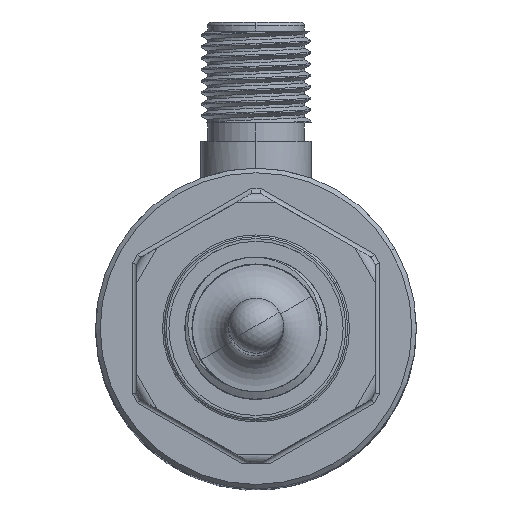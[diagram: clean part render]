
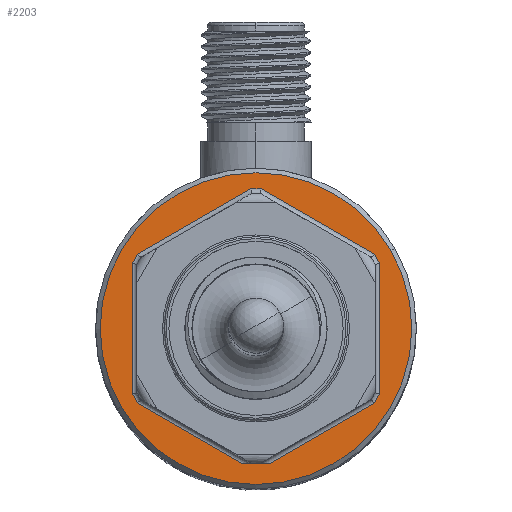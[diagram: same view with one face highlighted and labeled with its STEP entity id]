
A CAD part, top view. The second image highlights one B-rep face of the part: STEP entity #2203.
In plain terms, the highlighted planar face has unit normal (0, 0, 1).
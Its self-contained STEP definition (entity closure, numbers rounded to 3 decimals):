
#84 = DIRECTION ( 'NONE',  ( -0.866, 0.5, 0. ) ) ;
#101 = AXIS2_PLACEMENT_3D ( 'NONE', #7589, #4017, #7642 ) ;
#495 = CIRCLE ( 'NONE', #4862, 17. ) ;
#597 = ORIENTED_EDGE ( 'NONE', *, *, #8300, .T. ) ;
#643 = LINE ( 'NONE', #2558, #3125 ) ;
#646 = CARTESIAN_POINT ( 'NONE',  ( -8.116, 12.923, 0.5 ) ) ;
#773 = DIRECTION ( 'NONE',  ( 0.5, -0.866, 0. ) ) ;
#798 = CARTESIAN_POINT ( 'NONE',  ( 8.116, -12.923, 0.5 ) ) ;
#1218 = VERTEX_POINT ( 'NONE', #7981 ) ;
#1297 = DIRECTION ( 'NONE',  ( -0.5, 0.866, 0. ) ) ;
#1321 = VERTEX_POINT ( 'NONE', #10567 ) ;
#1338 = EDGE_CURVE ( 'NONE', #11295, #1536, #11471, .T. ) ;
#1460 = EDGE_CURVE ( 'NONE', #3049, #8716, #11148, .T. ) ;
#1507 = EDGE_CURVE ( 'NONE', #8716, #1893, #9417, .T. ) ;
#1536 = VERTEX_POINT ( 'NONE', #4961 ) ;
#1733 = DIRECTION ( 'NONE',  ( 0., -1., 0. ) ) ;
#1766 = VERTEX_POINT ( 'NONE', #646 ) ;
#1893 = VERTEX_POINT ( 'NONE', #8347 ) ;
#1996 = LINE ( 'NONE', #5673, #5981 ) ;
#2130 = DIRECTION ( 'NONE',  ( 0.866, 0.5, 0. ) ) ;
#2203 = ADVANCED_FACE ( 'NONE', ( #11455, #7716 ), #4962, .T. ) ;
#2265 = DIRECTION ( 'NONE',  ( -0.866, -0.5, 0. ) ) ;
#2350 = VECTOR ( 'NONE', #7934, 1000. ) ;
#2378 = VECTOR ( 'NONE', #773, 1000. ) ;
#2545 = DIRECTION ( 'NONE',  ( 1., 0., 0. ) ) ;
#2558 = CARTESIAN_POINT ( 'NONE',  ( 0., -13.49, 0.5 ) ) ;
#2682 = CARTESIAN_POINT ( 'NONE',  ( 15.25, -0.567, 0.5 ) ) ;
#2768 = AXIS2_PLACEMENT_3D ( 'NONE', #5798, #4906, #10371 ) ;
#2905 = CARTESIAN_POINT ( 'NONE',  ( 11.683, 6.745, 0.5 ) ) ;
#3049 = VERTEX_POINT ( 'NONE', #5371 ) ;
#3125 = VECTOR ( 'NONE', #3583, 1000. ) ;
#3145 = CARTESIAN_POINT ( 'NONE',  ( -7.134, 13.49, 0.5 ) ) ;
#3366 = VECTOR ( 'NONE', #2265, 1000. ) ;
#3373 = VECTOR ( 'NONE', #2545, 1000. ) ;
#3410 = DIRECTION ( 'NONE',  ( 1., 0., 0. ) ) ;
#3473 = DIRECTION ( 'NONE',  ( 0.5, 0.866, 0. ) ) ;
#3583 = DIRECTION ( 'NONE',  ( -1., 0., 0. ) ) ;
#3774 = ORIENTED_EDGE ( 'NONE', *, *, #1338, .T. ) ;
#4017 = DIRECTION ( 'NONE',  ( 0., 0., 1. ) ) ;
#4181 = VERTEX_POINT ( 'NONE', #11523 ) ;
#4400 = VERTEX_POINT ( 'NONE', #2682 ) ;
#4561 = ORIENTED_EDGE ( 'NONE', *, *, #10681, .T. ) ;
#4722 = EDGE_CURVE ( 'NONE', #10168, #10823, #495, .T. ) ;
#4805 = LINE ( 'NONE', #6713, #3366 ) ;
#4862 = AXIS2_PLACEMENT_3D ( 'NONE', #11606, #5228, #3410 ) ;
#4867 = EDGE_CURVE ( 'NONE', #8720, #9503, #4805, .T. ) ;
#4875 = VECTOR ( 'NONE', #10435, 1000. ) ;
#4906 = DIRECTION ( 'NONE',  ( 0., 0., 1. ) ) ;
#4961 = CARTESIAN_POINT ( 'NONE',  ( 6.134, 13.49, 0.5 ) ) ;
#4962 = PLANE ( 'NONE',  #2768 ) ;
#5062 = LINE ( 'NONE', #8734, #2350 ) ;
#5101 = LINE ( 'NONE', #6049, #9651 ) ;
#5220 = EDGE_CURVE ( 'NONE', #1766, #11295, #7602, .T. ) ;
#5228 = DIRECTION ( 'NONE',  ( 0., 0., 1. ) ) ;
#5371 = CARTESIAN_POINT ( 'NONE',  ( -8.116, -12.923, 0.5 ) ) ;
#5456 = ORIENTED_EDGE ( 'NONE', *, *, #9986, .F. ) ;
#5673 = CARTESIAN_POINT ( 'NONE',  ( 7.75, 12.557, 0.5 ) ) ;
#5765 = ORIENTED_EDGE ( 'NONE', *, *, #9410, .T. ) ;
#5798 = CARTESIAN_POINT ( 'NONE',  ( 0., 0., 0.5 ) ) ;
#5981 = VECTOR ( 'NONE', #84, 1000. ) ;
#6049 = CARTESIAN_POINT ( 'NONE',  ( -7.625, -13.207, 0.5 ) ) ;
#6053 = ORIENTED_EDGE ( 'NONE', *, *, #9124, .T. ) ;
#6236 = LINE ( 'NONE', #9910, #8855 ) ;
#6346 = VECTOR ( 'NONE', #2130, 1000. ) ;
#6560 = EDGE_CURVE ( 'NONE', #1893, #1766, #10590, .T. ) ;
#6608 = EDGE_CURVE ( 'NONE', #4400, #8720, #5062, .T. ) ;
#6713 = CARTESIAN_POINT ( 'NONE',  ( 7.625, -13.207, 0.5 ) ) ;
#7251 = LINE ( 'NONE', #2905, #2378 ) ;
#7427 = ORIENTED_EDGE ( 'NONE', *, *, #4722, .T. ) ;
#7589 = CARTESIAN_POINT ( 'NONE',  ( 0., 0., 0.5 ) ) ;
#7602 = LINE ( 'NONE', #8447, #6346 ) ;
#7642 = DIRECTION ( 'NONE',  ( 1., 0., 0. ) ) ;
#7716 = FACE_OUTER_BOUND ( 'NONE', #11749, .T. ) ;
#7737 = DIRECTION ( 'NONE',  ( -0.866, 0.5, 0. ) ) ;
#7934 = DIRECTION ( 'NONE',  ( -0.5, -0.866, 0. ) ) ;
#7981 = CARTESIAN_POINT ( 'NONE',  ( 15.25, 0.567, 0.5 ) ) ;
#8030 = CARTESIAN_POINT ( 'NONE',  ( 0., 13.49, 0.5 ) ) ;
#8132 = CARTESIAN_POINT ( 'NONE',  ( -15.25, -0.567, 0.5 ) ) ;
#8255 = VECTOR ( 'NONE', #3473, 1000. ) ;
#8300 = EDGE_CURVE ( 'NONE', #9503, #4181, #643, .T. ) ;
#8347 = CARTESIAN_POINT ( 'NONE',  ( -15.25, 0.567, 0.5 ) ) ;
#8396 = ORIENTED_EDGE ( 'NONE', *, *, #10169, .T. ) ;
#8447 = CARTESIAN_POINT ( 'NONE',  ( -7.625, 13.207, 0.5 ) ) ;
#8497 = CARTESIAN_POINT ( 'NONE',  ( -17., 0., 0.5 ) ) ;
#8660 = ORIENTED_EDGE ( 'NONE', *, *, #5220, .T. ) ;
#8716 = VERTEX_POINT ( 'NONE', #8132 ) ;
#8720 = VERTEX_POINT ( 'NONE', #798 ) ;
#8734 = CARTESIAN_POINT ( 'NONE',  ( 11.683, -6.745, 0.5 ) ) ;
#8855 = VECTOR ( 'NONE', #1733, 1000. ) ;
#9124 = EDGE_CURVE ( 'NONE', #1218, #4400, #6236, .T. ) ;
#9410 = EDGE_CURVE ( 'NONE', #1321, #1218, #7251, .T. ) ;
#9417 = LINE ( 'NONE', #11329, #4875 ) ;
#9503 = VERTEX_POINT ( 'NONE', #9912 ) ;
#9651 = VECTOR ( 'NONE', #7737, 1000. ) ;
#9669 = CARTESIAN_POINT ( 'NONE',  ( 17., 0., 0.5 ) ) ;
#9794 = CARTESIAN_POINT ( 'NONE',  ( -11.683, 6.745, 0.5 ) ) ;
#9910 = CARTESIAN_POINT ( 'NONE',  ( 15.25, 0., 0.5 ) ) ;
#9912 = CARTESIAN_POINT ( 'NONE',  ( 7.134, -13.49, 0.5 ) ) ;
#9986 = EDGE_CURVE ( 'NONE', #1321, #1536, #1996, .T. ) ;
#10057 = VECTOR ( 'NONE', #1297, 1000. ) ;
#10107 = ORIENTED_EDGE ( 'NONE', *, *, #6608, .T. ) ;
#10168 = VERTEX_POINT ( 'NONE', #8497 ) ;
#10169 = EDGE_CURVE ( 'NONE', #10823, #10168, #10980, .T. ) ;
#10256 = ORIENTED_EDGE ( 'NONE', *, *, #4867, .T. ) ;
#10269 = EDGE_LOOP ( 'NONE', ( #5456, #5765, #6053, #10107, #10256, #597, #4561, #10653, #11809, #11366, #8660, #3774 ) ) ;
#10371 = DIRECTION ( 'NONE',  ( 1., 0., 0. ) ) ;
#10435 = DIRECTION ( 'NONE',  ( 0., 1., 0. ) ) ;
#10567 = CARTESIAN_POINT ( 'NONE',  ( 8.616, 12.057, 0.5 ) ) ;
#10590 = LINE ( 'NONE', #9794, #8255 ) ;
#10653 = ORIENTED_EDGE ( 'NONE', *, *, #1460, .T. ) ;
#10681 = EDGE_CURVE ( 'NONE', #4181, #3049, #5101, .T. ) ;
#10823 = VERTEX_POINT ( 'NONE', #9669 ) ;
#10980 = CIRCLE ( 'NONE', #101, 17. ) ;
#11148 = LINE ( 'NONE', #11393, #10057 ) ;
#11295 = VERTEX_POINT ( 'NONE', #3145 ) ;
#11329 = CARTESIAN_POINT ( 'NONE',  ( -15.25, 0., 0.5 ) ) ;
#11366 = ORIENTED_EDGE ( 'NONE', *, *, #6560, .T. ) ;
#11393 = CARTESIAN_POINT ( 'NONE',  ( -11.683, -6.745, 0.5 ) ) ;
#11455 = FACE_BOUND ( 'NONE', #10269, .T. ) ;
#11471 = LINE ( 'NONE', #8030, #3373 ) ;
#11523 = CARTESIAN_POINT ( 'NONE',  ( -7.134, -13.49, 0.5 ) ) ;
#11606 = CARTESIAN_POINT ( 'NONE',  ( 0., 0., 0.5 ) ) ;
#11749 = EDGE_LOOP ( 'NONE', ( #7427, #8396 ) ) ;
#11809 = ORIENTED_EDGE ( 'NONE', *, *, #1507, .T. ) ;
